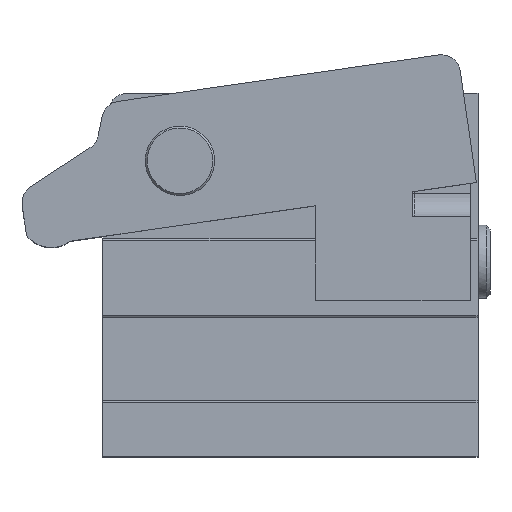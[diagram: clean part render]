
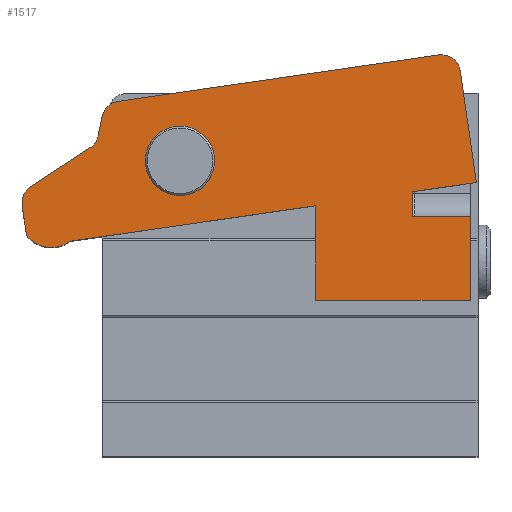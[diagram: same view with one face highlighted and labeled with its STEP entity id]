
A CAD part, top view. The second image highlights one B-rep face of the part: STEP entity #1517.
In plain terms, the highlighted planar face has unit normal (0, 0, 1).
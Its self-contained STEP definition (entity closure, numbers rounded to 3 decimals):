
#20=FACE_BOUND('',#195,.T.);
#46=PLANE('',#1656);
#113=FACE_OUTER_BOUND('',#194,.T.);
#194=EDGE_LOOP('',(#1140,#1141,#1142,#1143,#1144,#1145,#1146,#1147,#1148,
#1149,#1150,#1151,#1152,#1153,#1154,#1155,#1156,#1157));
#195=EDGE_LOOP('',(#1158));
#252=LINE('',#2253,#400);
#257=LINE('',#2264,#405);
#266=LINE('',#2285,#414);
#274=LINE('',#2299,#422);
#279=LINE('',#2310,#427);
#283=LINE('',#2317,#431);
#286=LINE('',#2325,#434);
#296=LINE('',#2359,#444);
#315=LINE('',#2403,#463);
#317=LINE('',#2409,#465);
#318=LINE('',#2410,#466);
#319=LINE('',#2412,#467);
#400=VECTOR('',#1825,10.);
#405=VECTOR('',#1832,10.);
#414=VECTOR('',#1847,10.);
#422=VECTOR('',#1857,10.);
#427=VECTOR('',#1864,10.);
#431=VECTOR('',#1870,10.);
#434=VECTOR('',#1875,10.);
#444=VECTOR('',#1917,10.);
#463=VECTOR('',#1958,10.);
#465=VECTOR('',#1964,10.);
#466=VECTOR('',#1965,10.);
#467=VECTOR('',#1966,10.);
#534=CIRCLE('',#1581,8.975);
#558=CIRCLE('',#1618,5.);
#560=CIRCLE('',#1630,5.);
#562=CIRCLE('',#1633,5.);
#564=CIRCLE('',#1636,5.);
#565=CIRCLE('',#1638,8.);
#572=CIRCLE('',#1657,0.5);
#598=VERTEX_POINT('',#2162);
#625=VERTEX_POINT('',#2235);
#626=VERTEX_POINT('',#2237);
#632=VERTEX_POINT('',#2250);
#633=VERTEX_POINT('',#2252);
#637=VERTEX_POINT('',#2261);
#638=VERTEX_POINT('',#2263);
#647=VERTEX_POINT('',#2284);
#652=VERTEX_POINT('',#2297);
#656=VERTEX_POINT('',#2307);
#657=VERTEX_POINT('',#2309);
#659=VERTEX_POINT('',#2315);
#662=VERTEX_POINT('',#2322);
#663=VERTEX_POINT('',#2324);
#670=VERTEX_POINT('',#2356);
#671=VERTEX_POINT('',#2358);
#685=VERTEX_POINT('',#2402);
#687=VERTEX_POINT('',#2408);
#688=VERTEX_POINT('',#2411);
#743=EDGE_CURVE('',#598,#598,#534,.T.);
#777=EDGE_CURVE('',#626,#625,#558,.T.);
#784=EDGE_CURVE('',#633,#632,#252,.T.);
#789=EDGE_CURVE('',#638,#637,#257,.T.);
#799=EDGE_CURVE('',#647,#626,#266,.T.);
#807=EDGE_CURVE('',#637,#652,#274,.T.);
#812=EDGE_CURVE('',#657,#656,#279,.T.);
#816=EDGE_CURVE('',#625,#659,#283,.T.);
#819=EDGE_CURVE('',#663,#662,#286,.T.);
#822=EDGE_CURVE('',#652,#647,#560,.T.);
#824=EDGE_CURVE('',#659,#663,#562,.T.);
#826=EDGE_CURVE('',#662,#657,#564,.T.);
#827=EDGE_CURVE('',#656,#633,#565,.T.);
#838=EDGE_CURVE('',#670,#671,#296,.T.);
#860=EDGE_CURVE('',#685,#638,#315,.T.);
#863=EDGE_CURVE('',#632,#687,#317,.T.);
#864=EDGE_CURVE('',#671,#687,#318,.T.);
#865=EDGE_CURVE('',#670,#688,#319,.T.);
#866=EDGE_CURVE('',#688,#685,#572,.T.);
#1140=ORIENTED_EDGE('',*,*,#863,.T.);
#1141=ORIENTED_EDGE('',*,*,#864,.F.);
#1142=ORIENTED_EDGE('',*,*,#838,.F.);
#1143=ORIENTED_EDGE('',*,*,#865,.T.);
#1144=ORIENTED_EDGE('',*,*,#866,.T.);
#1145=ORIENTED_EDGE('',*,*,#860,.T.);
#1146=ORIENTED_EDGE('',*,*,#789,.T.);
#1147=ORIENTED_EDGE('',*,*,#807,.T.);
#1148=ORIENTED_EDGE('',*,*,#822,.T.);
#1149=ORIENTED_EDGE('',*,*,#799,.T.);
#1150=ORIENTED_EDGE('',*,*,#777,.T.);
#1151=ORIENTED_EDGE('',*,*,#816,.T.);
#1152=ORIENTED_EDGE('',*,*,#824,.T.);
#1153=ORIENTED_EDGE('',*,*,#819,.T.);
#1154=ORIENTED_EDGE('',*,*,#826,.T.);
#1155=ORIENTED_EDGE('',*,*,#812,.T.);
#1156=ORIENTED_EDGE('',*,*,#827,.T.);
#1157=ORIENTED_EDGE('',*,*,#784,.T.);
#1158=ORIENTED_EDGE('',*,*,#743,.T.);
#1517=ADVANCED_FACE('',(#113,#20),#46,.T.);
#1581=AXIS2_PLACEMENT_3D('',#2163,#1731,#1732);
#1618=AXIS2_PLACEMENT_3D('',#2238,#1815,#1816);
#1630=AXIS2_PLACEMENT_3D('',#2329,#1881,#1882);
#1633=AXIS2_PLACEMENT_3D('',#2332,#1887,#1888);
#1636=AXIS2_PLACEMENT_3D('',#2335,#1893,#1894);
#1638=AXIS2_PLACEMENT_3D('',#2337,#1897,#1898);
#1656=AXIS2_PLACEMENT_3D('',#2407,#1962,#1963);
#1657=AXIS2_PLACEMENT_3D('',#2413,#1967,#1968);
#1731=DIRECTION('center_axis',(0.,0.,
-1.));
#1732=DIRECTION('ref_axis',(0.43,-0.903,0.));
#1815=DIRECTION('center_axis',(0.,0.,
1.));
#1816=DIRECTION('ref_axis',(-0.685,0.729,0.));
#1825=DIRECTION('',(0.99,0.143,0.));
#1832=DIRECTION('',(0.99,0.143,0.));
#1847=DIRECTION('',(-0.99,-0.143,0.));
#1857=DIRECTION('',(-0.143,0.99,0.));
#1864=DIRECTION('',(0.143,-0.99,0.));
#1870=DIRECTION('',(-0.204,-0.979,0.));
#1875=DIRECTION('',(-0.836,-0.548,0.));
#1881=DIRECTION('center_axis',(0.,0.,
1.));
#1882=DIRECTION('ref_axis',(0.598,0.801,0.));
#1887=DIRECTION('center_axis',(0.,0.,
-1.));
#1888=DIRECTION('ref_axis',(0.826,-0.563,0.));
#1893=DIRECTION('center_axis',(0.,0.,
1.));
#1894=DIRECTION('ref_axis',(-0.912,0.411,0.));
#1897=DIRECTION('center_axis',(0.,0.,
1.));
#1898=DIRECTION('ref_axis',(0.797,0.605,0.));
#1917=DIRECTION('',(0.,-1.,0.));
#1958=DIRECTION('',(0.,1.,0.));
#1962=DIRECTION('center_axis',(0.,0.,
1.));
#1963=DIRECTION('ref_axis',(0.,-1.,0.));
#1964=DIRECTION('',(0.,-1.,0.));
#1965=DIRECTION('',(-1.,0.,0.));
#1966=DIRECTION('',(-1.,0.,0.));
#1967=DIRECTION('center_axis',(0.,0.,
-1.));
#1968=DIRECTION('ref_axis',(-0.707,-0.707,0.));
#2162=CARTESIAN_POINT('',(-31.355,37.605,27.5));
#2163=CARTESIAN_POINT('Origin',(-27.5,29.5,27.5));
#2235=CARTESIAN_POINT('',(-47.606,40.947,27.5));
#2237=CARTESIAN_POINT('',(-43.427,44.876,27.5));
#2238=CARTESIAN_POINT('Origin',(-42.711,39.928,27.5));
#2250=CARTESIAN_POINT('',(7.5,17.896,27.5));
#2252=CARTESIAN_POINT('',(-55.941,8.71,27.5));
#2253=CARTESIAN_POINT('',(26.823,20.693,27.5));
#2261=CARTESIAN_POINT('',(49.09,23.918,27.5));
#2263=CARTESIAN_POINT('',(32.5,21.515,27.5));
#2264=CARTESIAN_POINT('',(26.823,20.693,27.5));
#2284=CARTESIAN_POINT('',(39.27,56.85,27.5));
#2285=CARTESIAN_POINT('',(15.27,53.375,27.5));
#2297=CARTESIAN_POINT('',(44.935,52.618,27.5));
#2299=CARTESIAN_POINT('',(46.726,40.247,27.5));
#2307=CARTESIAN_POINT('',(-67.15,10.247,27.5));
#2309=CARTESIAN_POINT('',(-68.262,17.922,27.5));
#2310=CARTESIAN_POINT('',(-69.067,23.482,27.5));
#2315=CARTESIAN_POINT('',(-48.639,35.984,27.5));
#2317=CARTESIAN_POINT('',(-46.443,46.529,27.5));
#2322=CARTESIAN_POINT('',(-66.054,22.82,27.5));
#2324=CARTESIAN_POINT('',(-50.793,32.821,27.5));
#2325=CARTESIAN_POINT('',(-23.943,50.417,27.5));
#2329=CARTESIAN_POINT('Origin',(39.986,51.902,27.5));
#2332=CARTESIAN_POINT('Origin',(-53.534,37.003,27.5));
#2335=CARTESIAN_POINT('Origin',(-63.313,18.638,27.5));
#2337=CARTESIAN_POINT('Origin',(-60.777,15.083,27.5));
#2356=CARTESIAN_POINT('',(47.5,15.,27.5));
#2358=CARTESIAN_POINT('',(47.5,-6.5,27.5));
#2359=CARTESIAN_POINT('',(47.5,-6.5,27.5));
#2402=CARTESIAN_POINT('',(32.5,15.5,27.5));
#2403=CARTESIAN_POINT('',(32.5,8.857,27.5));
#2407=CARTESIAN_POINT('Origin',(47.5,-6.5,27.5));
#2408=CARTESIAN_POINT('',(7.5,-6.5,27.5));
#2409=CARTESIAN_POINT('',(7.5,-6.5,27.5));
#2410=CARTESIAN_POINT('',(37.5,-6.5,27.5));
#2411=CARTESIAN_POINT('',(33.,15.,27.5));
#2412=CARTESIAN_POINT('',(47.5,15.,27.5));
#2413=CARTESIAN_POINT('Origin',(33.,15.5,27.5));
